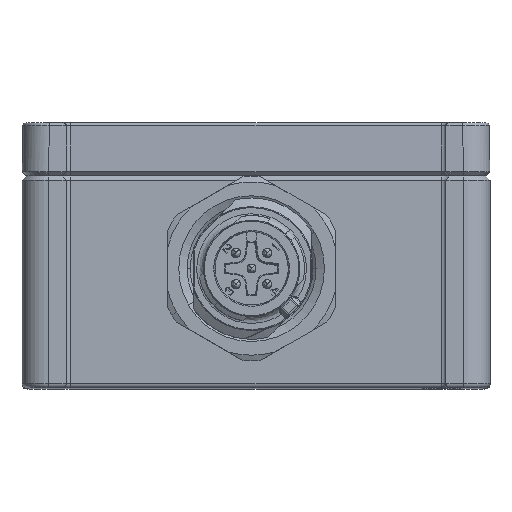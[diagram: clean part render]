
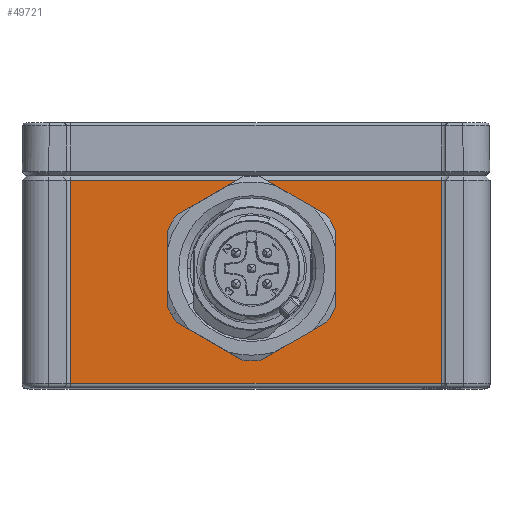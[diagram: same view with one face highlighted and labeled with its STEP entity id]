
A CAD part, top view. The second image highlights one B-rep face of the part: STEP entity #49721.
In plain terms, the highlighted planar face has unit normal (0, 0, 1).
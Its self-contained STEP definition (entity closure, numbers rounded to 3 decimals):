
#2401 = VECTOR ( 'NONE', #12745, 1000. ) ;
#2635 = CARTESIAN_POINT ( 'NONE',  ( 21., -2.5, 37.5 ) ) ;
#5721 = VECTOR ( 'NONE', #85991, 1000. ) ;
#8225 = CARTESIAN_POINT ( 'NONE',  ( -0.5, 10.5, 37.5 ) ) ;
#9774 = DIRECTION ( 'NONE',  ( -1., 0., 0. ) ) ;
#12341 = EDGE_LOOP ( 'NONE', ( #40696, #39634 ) ) ;
#12692 = CIRCLE ( 'NONE', #77693, 8. ) ;
#12745 = DIRECTION ( 'NONE',  ( -1., 0., 0. ) ) ;
#13230 = VERTEX_POINT ( 'NONE', #87208 ) ;
#14630 = EDGE_CURVE ( 'NONE', #44785, #43749, #12692, .T. ) ;
#16564 = ORIENTED_EDGE ( 'NONE', *, *, #35778, .T. ) ;
#17949 = CARTESIAN_POINT ( 'NONE',  ( -21., -2.5, 37.5 ) ) ;
#19528 = EDGE_CURVE ( 'NONE', #48625, #13230, #72082, .T. ) ;
#19614 = VERTEX_POINT ( 'NONE', #17949 ) ;
#21288 = EDGE_CURVE ( 'NONE', #48625, #24890, #79398, .T. ) ;
#24083 = FACE_OUTER_BOUND ( 'NONE', #30606, .T. ) ;
#24890 = VERTEX_POINT ( 'NONE', #2635 ) ;
#29501 = DIRECTION ( 'NONE',  ( 0., 0., 1. ) ) ;
#30606 = EDGE_LOOP ( 'NONE', ( #70069, #16564, #73749, #53166 ) ) ;
#30735 = VECTOR ( 'NONE', #48158, 1000. ) ;
#32059 = VECTOR ( 'NONE', #59035, 1000. ) ;
#35778 = EDGE_CURVE ( 'NONE', #19614, #24890, #54170, .T. ) ;
#37083 = CARTESIAN_POINT ( 'NONE',  ( 0., 21., 37.5 ) ) ;
#37970 = DIRECTION ( 'NONE',  ( 0., 0., -1. ) ) ;
#39634 = ORIENTED_EDGE ( 'NONE', *, *, #71730, .F. ) ;
#40308 = CARTESIAN_POINT ( 'NONE',  ( -21., -2.5, 37.5 ) ) ;
#40696 = ORIENTED_EDGE ( 'NONE', *, *, #14630, .F. ) ;
#43749 = VERTEX_POINT ( 'NONE', #68729 ) ;
#44193 = CARTESIAN_POINT ( 'NONE',  ( 21., 20.5, 37.5 ) ) ;
#44785 = VERTEX_POINT ( 'NONE', #83691 ) ;
#48158 = DIRECTION ( 'NONE',  ( 1., 0., 0. ) ) ;
#48625 = VERTEX_POINT ( 'NONE', #44193 ) ;
#49721 = ADVANCED_FACE ( 'NONE', ( #65244, #24083 ), #50463, .F. ) ;
#50463 = PLANE ( 'NONE',  #50582 ) ;
#50582 = AXIS2_PLACEMENT_3D ( 'NONE', #37083, #37970, #9774 ) ;
#53166 = ORIENTED_EDGE ( 'NONE', *, *, #19528, .T. ) ;
#54170 = LINE ( 'NONE', #40308, #30735 ) ;
#59035 = DIRECTION ( 'NONE',  ( 0., -1., 0. ) ) ;
#65206 = LINE ( 'NONE', #72574, #5721 ) ;
#65244 = FACE_BOUND ( 'NONE', #12341, .T. ) ;
#68585 = CIRCLE ( 'NONE', #73010, 8. ) ;
#68729 = CARTESIAN_POINT ( 'NONE',  ( -8.5, 10.5, 37.5 ) ) ;
#70069 = ORIENTED_EDGE ( 'NONE', *, *, #78132, .F. ) ;
#70311 = DIRECTION ( 'NONE',  ( 0., 0., 1. ) ) ;
#71730 = EDGE_CURVE ( 'NONE', #43749, #44785, #68585, .T. ) ;
#72082 = LINE ( 'NONE', #84381, #2401 ) ;
#72574 = CARTESIAN_POINT ( 'NONE',  ( -21., -2.5, 37.5 ) ) ;
#73010 = AXIS2_PLACEMENT_3D ( 'NONE', #8225, #29501, #85863 ) ;
#73749 = ORIENTED_EDGE ( 'NONE', *, *, #21288, .F. ) ;
#77693 = AXIS2_PLACEMENT_3D ( 'NONE', #84193, #70311, #85564 ) ;
#78132 = EDGE_CURVE ( 'NONE', #19614, #13230, #65206, .T. ) ;
#79398 = LINE ( 'NONE', #87635, #32059 ) ;
#83691 = CARTESIAN_POINT ( 'NONE',  ( 7.5, 10.5, 37.5 ) ) ;
#84193 = CARTESIAN_POINT ( 'NONE',  ( -0.5, 10.5, 37.5 ) ) ;
#84381 = CARTESIAN_POINT ( 'NONE',  ( 21., 20.5, 37.5 ) ) ;
#85564 = DIRECTION ( 'NONE',  ( 1., 0., 0. ) ) ;
#85863 = DIRECTION ( 'NONE',  ( 1., 0., 0. ) ) ;
#85991 = DIRECTION ( 'NONE',  ( 0., 1., 0. ) ) ;
#87208 = CARTESIAN_POINT ( 'NONE',  ( -21., 20.5, 37.5 ) ) ;
#87635 = CARTESIAN_POINT ( 'NONE',  ( 21., 20.5, 37.5 ) ) ;
